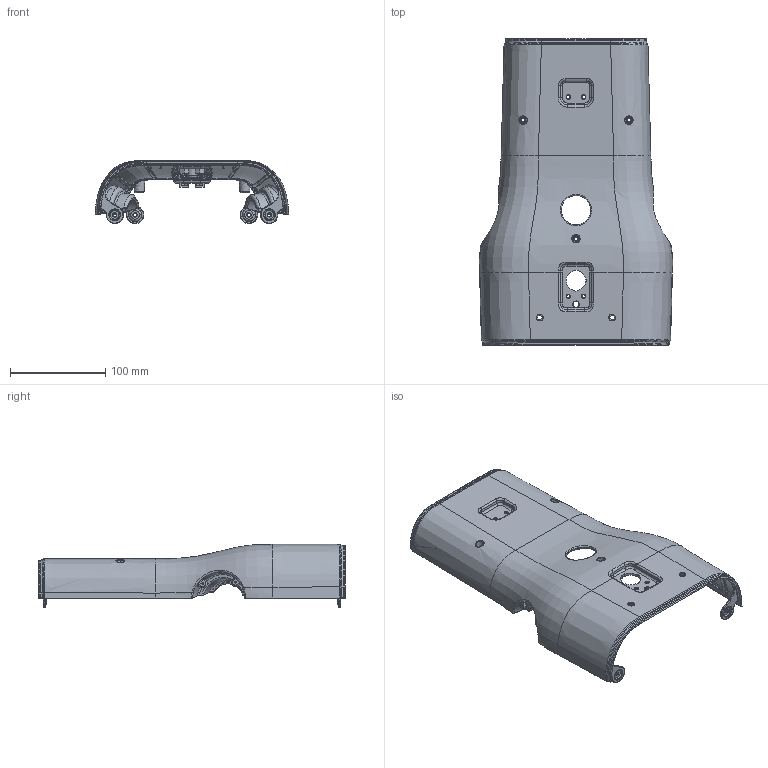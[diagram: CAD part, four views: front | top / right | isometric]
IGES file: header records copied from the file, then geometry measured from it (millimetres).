
Start section: File generated by Shapr3D Version 5.750.0.7750
Global section: file name: /Users/fubintlab/Library/Containers/com.shapr3d.shapr/Data/tmp/export/temp_export; native system: Shapr3D; preprocessor: 5.750.0.7750; date: 241217.120312; units: millimetre
Bounding box: 202.31 x 321.39 x 66.19 mm (x, y, z)
Volume: 251666.1 mm3; surface area: 171088.1 mm2
Topology: 1 solids, 1 shells, 1692 faces, 4090 edges, 2297 vertices
Faces by surface type: bspline 1504, plane 188
